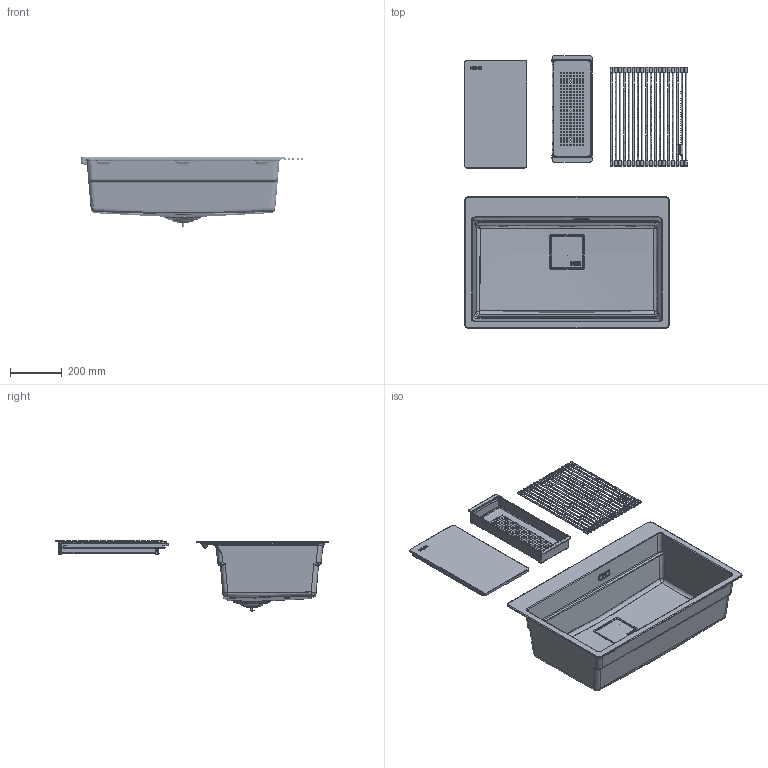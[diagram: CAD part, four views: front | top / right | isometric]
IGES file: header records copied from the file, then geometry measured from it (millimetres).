
Global section: file name: F:\_CONVERSIONE_CAD_2024_2025\PACCHETTI_2026\NUOVI_PACCHETTI_LUGLIO\PRIORITY_1\3D001_Sinks_Kubus-2-Pro_KNG-PRO-610-73-FTL\3D001_Sinks_Kubus-2-Pro_KNG-PRO-610-73-FTL.igs; native system: Rhinoceros ( May  6 2026 ); preprocessor: Trout Lake IGES 012 May  6 2026; date: 260702.124641; units: millimetre
Bounding box: 860.56 x 1054.67 x 273.72 mm (x, y, z)
Surface area: 2486662.8 mm2 (no closed solid volume)
Topology: 0 solids, 0 shells, 6754 faces, 39896 edges, 39559 vertices
Faces by surface type: bspline 6754
